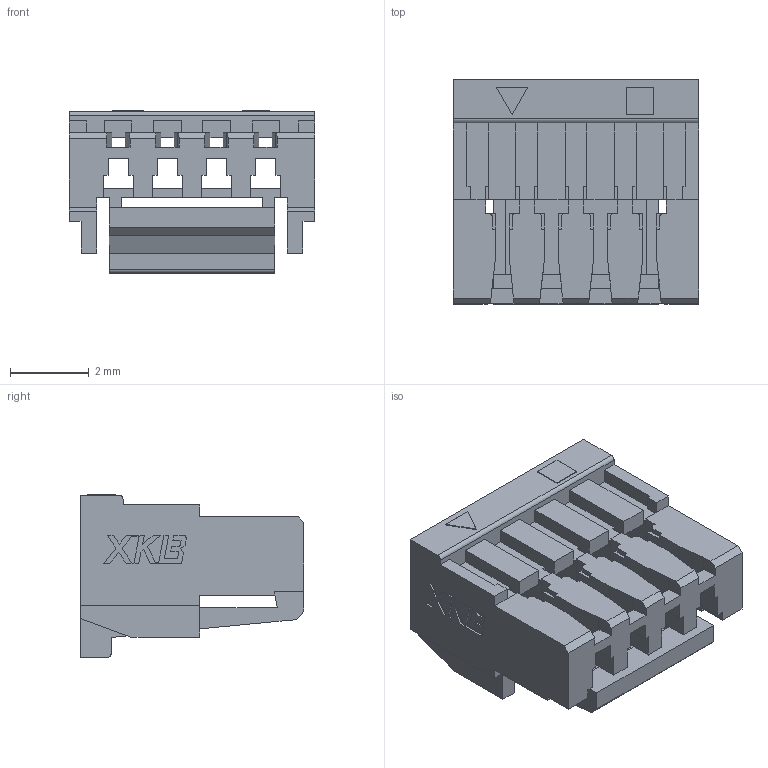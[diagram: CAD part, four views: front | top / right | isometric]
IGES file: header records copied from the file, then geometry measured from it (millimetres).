
Start section: SolidWorks IGES file using analytic representation for surfaces
Global section: file name: C:\Users\Administrator\Desktop\eRob 蟀諉ん\厙桴\GHR-04V-S(EtherCAT).IGS; native system: SolidWorks 2016; preprocessor: SolidWorks 2016; author: Administrator; date: 220221.160901; units: millimetre
Bounding box: 6.25 x 5.7 x 4.14 mm (x, y, z)
Surface area: 302.1 mm2 (no closed solid volume)
Topology: 0 solids, 0 shells, 321 faces, 2048 edges, 2048 vertices
Faces by surface type: bspline 305, revolution 16
